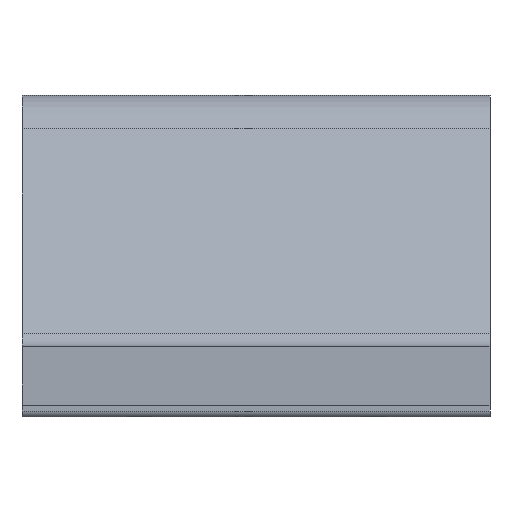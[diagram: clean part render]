
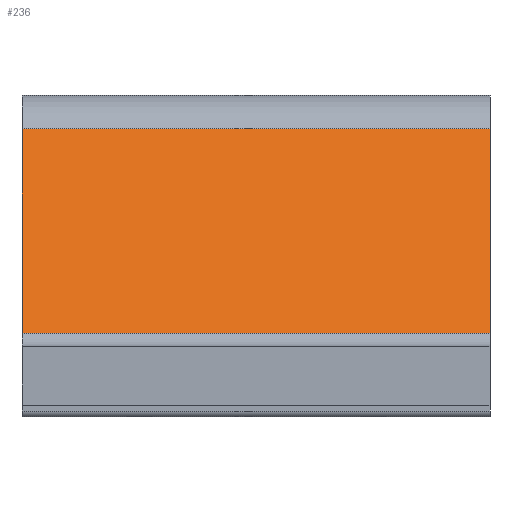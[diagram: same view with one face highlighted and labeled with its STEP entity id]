
A CAD part, front view. The second image highlights one B-rep face of the part: STEP entity #236.
In plain terms, the highlighted planar face has unit normal (0, -0.906, 0.422).
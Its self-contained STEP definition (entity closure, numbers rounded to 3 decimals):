
#1 = FACE_OUTER_BOUND ( 'NONE', #1464, .T. ) ;
#8 = PLANE ( 'NONE',  #1062 ) ;
#9 = ORIENTED_EDGE ( 'NONE', *, *, #1778, .T. ) ;
#20 = LINE ( 'NONE', #910, #391 ) ;
#29 = VERTEX_POINT ( 'NONE', #1160 ) ;
#113 = VERTEX_POINT ( 'NONE', #465 ) ;
#119 = CARTESIAN_POINT ( 'NONE',  ( 273.1, 107.461, -165.289 ) ) ;
#149 = DIRECTION ( 'NONE',  ( 0., -0.907, 0.422 ) ) ;
#182 = VERTEX_POINT ( 'NONE', #1193 ) ;
#236 = ADVANCED_FACE ( 'NONE', ( #1 ), #8, .T. ) ;
#331 = VECTOR ( 'NONE', #385, 1000. ) ;
#385 = DIRECTION ( 'NONE',  ( 0., -0.422, -0.907 ) ) ;
#391 = VECTOR ( 'NONE', #617, 1000. ) ;
#395 = ORIENTED_EDGE ( 'NONE', *, *, #1119, .F. ) ;
#431 = EDGE_CURVE ( 'NONE', #182, #113, #1180, .T. ) ;
#465 = CARTESIAN_POINT ( 'NONE',  ( 332.1, 107.461, -165.289 ) ) ;
#481 = VECTOR ( 'NONE', #1059, 1000. ) ;
#617 = DIRECTION ( 'NONE',  ( 0., 0.422, 0.907 ) ) ;
#639 = CARTESIAN_POINT ( 'NONE',  ( 292.1, 99.332, -182.744 ) ) ;
#685 = DIRECTION ( 'NONE',  ( 1., 0., 0. ) ) ;
#713 = LINE ( 'NONE', #1233, #331 ) ;
#760 = LINE ( 'NONE', #1476, #481 ) ;
#812 = EDGE_CURVE ( 'NONE', #113, #29, #713, .T. ) ;
#910 = CARTESIAN_POINT ( 'NONE',  ( 292.1, 99.332, -182.744 ) ) ;
#1004 = ORIENTED_EDGE ( 'NONE', *, *, #431, .F. ) ;
#1059 = DIRECTION ( 'NONE',  ( 1., 0., 0. ) ) ;
#1062 = AXIS2_PLACEMENT_3D ( 'NONE', #1277, #149, #1818 ) ;
#1119 = EDGE_CURVE ( 'NONE', #1218, #182, #20, .T. ) ;
#1160 = CARTESIAN_POINT ( 'NONE',  ( 332.1, 99.332, -182.744 ) ) ;
#1180 = LINE ( 'NONE', #119, #1337 ) ;
#1193 = CARTESIAN_POINT ( 'NONE',  ( 292.1, 107.461, -165.289 ) ) ;
#1218 = VERTEX_POINT ( 'NONE', #639 ) ;
#1233 = CARTESIAN_POINT ( 'NONE',  ( 332.1, 107.461, -165.289 ) ) ;
#1277 = CARTESIAN_POINT ( 'NONE',  ( 273.1, 107.461, -165.289 ) ) ;
#1337 = VECTOR ( 'NONE', #685, 1000. ) ;
#1464 = EDGE_LOOP ( 'NONE', ( #1004, #395, #9, #1634 ) ) ;
#1476 = CARTESIAN_POINT ( 'NONE',  ( 273.1, 99.332, -182.744 ) ) ;
#1634 = ORIENTED_EDGE ( 'NONE', *, *, #812, .F. ) ;
#1778 = EDGE_CURVE ( 'NONE', #1218, #29, #760, .T. ) ;
#1818 = DIRECTION ( 'NONE',  ( 0., -0.422, -0.907 ) ) ;
